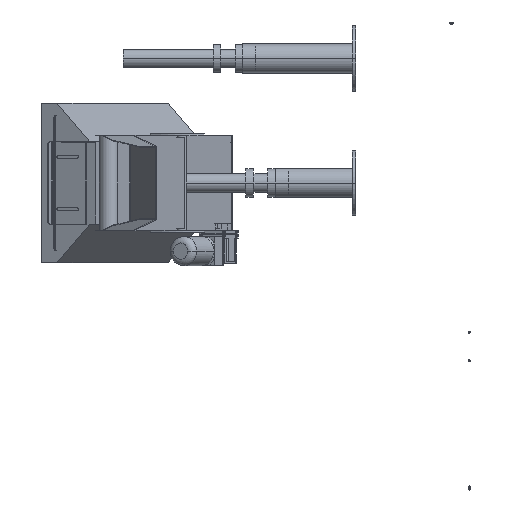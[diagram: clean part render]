
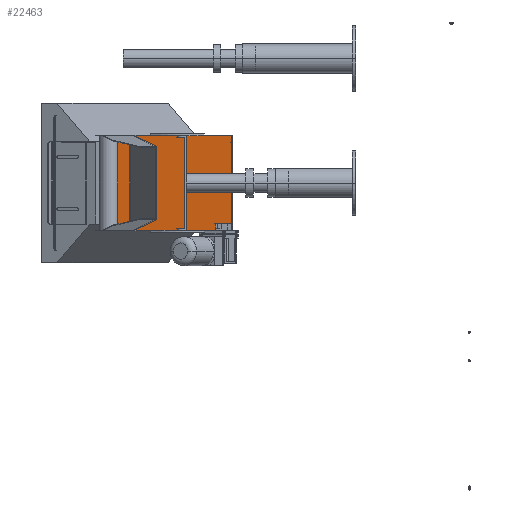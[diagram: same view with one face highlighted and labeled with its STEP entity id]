
A CAD part, left-side view. The second image highlights one B-rep face of the part: STEP entity #22463.
In plain terms, the highlighted planar face has unit normal (-0.5, -0.866, 0).
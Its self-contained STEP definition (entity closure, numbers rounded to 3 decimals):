
#809 = ORIENTED_EDGE ( 'NONE', *, *, #25037, .T. ) ;
#1647 = LINE ( 'NONE', #24183, #15377 ) ;
#1972 = VERTEX_POINT ( 'NONE', #16559 ) ;
#2034 = VECTOR ( 'NONE', #6801, 1000. ) ;
#3453 = VERTEX_POINT ( 'NONE', #13932 ) ;
#4084 = EDGE_LOOP ( 'NONE', ( #809, #27692, #17065, #8581, #27033 ) ) ;
#4525 = VERTEX_POINT ( 'NONE', #5808 ) ;
#4584 = DIRECTION ( 'NONE',  ( 0., 0., -1. ) ) ;
#5311 = EDGE_CURVE ( 'NONE', #15251, #1972, #1647, .T. ) ;
#5600 = PLANE ( 'NONE',  #26627 ) ;
#5808 = CARTESIAN_POINT ( 'NONE',  ( 956.77, 470.377, -57.341 ) ) ;
#6051 = DIRECTION ( 'NONE',  ( -0.866, 0.5, 0. ) ) ;
#6801 = DIRECTION ( 'NONE',  ( -0.866, 0.5, 0. ) ) ;
#8581 = ORIENTED_EDGE ( 'NONE', *, *, #28634, .T. ) ;
#9303 = VECTOR ( 'NONE', #4584, 1000. ) ;
#9578 = VECTOR ( 'NONE', #11639, 1000. ) ;
#10738 = CARTESIAN_POINT ( 'NONE',  ( 502.107, 732.877, -57.341 ) ) ;
#11639 = DIRECTION ( 'NONE',  ( 0.866, -0.5, 0. ) ) ;
#11844 = LINE ( 'NONE', #25304, #9303 ) ;
#12914 = VECTOR ( 'NONE', #25207, 1000. ) ;
#13932 = CARTESIAN_POINT ( 'NONE',  ( 411.174, 785.377, -57.341 ) ) ;
#15251 = VERTEX_POINT ( 'NONE', #21187 ) ;
#15377 = VECTOR ( 'NONE', #19361, 1000. ) ;
#16559 = CARTESIAN_POINT ( 'NONE',  ( 1019.99, 433.877, 232.659 ) ) ;
#17065 = ORIENTED_EDGE ( 'NONE', *, *, #5311, .T. ) ;
#17553 = FACE_OUTER_BOUND ( 'NONE', #4084, .T. ) ;
#17852 = CARTESIAN_POINT ( 'NONE',  ( 502.107, 732.877, 232.659 ) ) ;
#19361 = DIRECTION ( 'NONE',  ( 0., 0., 1. ) ) ;
#19453 = CARTESIAN_POINT ( 'NONE',  ( 411.174, 785.377, 232.659 ) ) ;
#21027 = LINE ( 'NONE', #28407, #9578 ) ;
#21187 = CARTESIAN_POINT ( 'NONE',  ( 1019.99, 433.877, -57.341 ) ) ;
#21985 = LINE ( 'NONE', #17852, #2034 ) ;
#22463 = ADVANCED_FACE ( 'NONE', ( #17553 ), #5600, .T. ) ;
#23198 = VERTEX_POINT ( 'NONE', #19453 ) ;
#24064 = EDGE_CURVE ( 'NONE', #4525, #15251, #26432, .T. ) ;
#24183 = CARTESIAN_POINT ( 'NONE',  ( 1019.99, 433.877, -57.341 ) ) ;
#24500 = DIRECTION ( 'NONE',  ( -0.5, -0.866, 0. ) ) ;
#25037 = EDGE_CURVE ( 'NONE', #3453, #4525, #21027, .T. ) ;
#25207 = DIRECTION ( 'NONE',  ( 0.866, -0.5, 0. ) ) ;
#25304 = CARTESIAN_POINT ( 'NONE',  ( 411.174, 785.377, -57.341 ) ) ;
#26432 = LINE ( 'NONE', #29747, #12914 ) ;
#26627 = AXIS2_PLACEMENT_3D ( 'NONE', #10738, #24500, #6051 ) ;
#27033 = ORIENTED_EDGE ( 'NONE', *, *, #28502, .T. ) ;
#27692 = ORIENTED_EDGE ( 'NONE', *, *, #24064, .T. ) ;
#28407 = CARTESIAN_POINT ( 'NONE',  ( 502.107, 732.877, -57.341 ) ) ;
#28502 = EDGE_CURVE ( 'NONE', #23198, #3453, #11844, .T. ) ;
#28634 = EDGE_CURVE ( 'NONE', #1972, #23198, #21985, .T. ) ;
#29747 = CARTESIAN_POINT ( 'NONE',  ( 502.107, 732.877, -57.341 ) ) ;
